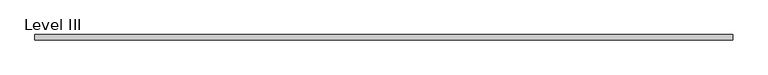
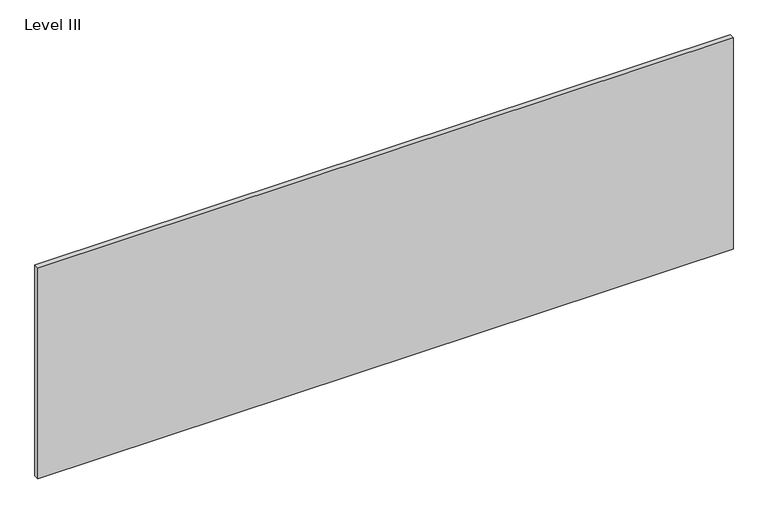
"""IFC4 building model written with IfcOpenShell, lengths in millimetres: proxy geometry, Panel-Fascia-Teknion-Altos-Landscape : Level III."""

from ifc_helpers import new_model, si_unit, frame, origin, place, context, project, spatial, polyline, outline, extrude, source, transform, mapped, element, save


def level_iii_9491f67b(model_context):
    return source(origin(), model_context, "Body", "SweptSolid", [
        extrude(outline(polyline([(1252.8407125, 9.525), (1252.8407125, -9.525), (-1252.8407125, -9.525), (-1252.8407125, 9.525), (1252.8407125, 9.525)])), frame((0.0, 0.0, 3.175), z_axis=(0.0, 0.0, 1.0), x_axis=(1.0, 0.0, 0.0)), (0.0, 0.0, 1.0), 804.418),
    ])


if __name__ == "__main__":
    model = new_model("IFC4")
    model_context = context("Model", 3, world=origin())
    ifc_project = project(units=[si_unit("LENGTHUNIT", "METRE", prefix="MILLI")], contexts=[model_context])
    site = spatial("IfcSite", under=ifc_project)
    building = spatial("IfcBuilding", under=site)
    placement = place(None, origin())
    level_iii_shape = level_iii_9491f67b(model_context)
    element("IfcBuildingElementProxy", 1, Name="Panel-Fascia-Teknion-Altos-Landscape : Level III", ObjectType="Panel-Fascia-Teknion-Altos-Landscape : Level III", at=placement, inside=building, context=model_context, shape_type="MappedRepresentation", body=[
        mapped(level_iii_shape, transform((0.0, 0.0, 0.0), x_axis=(1.0, 0.0, 0.0), y_axis=(0.0, 1.0, 0.0), z_axis=(0.0, 0.0, 1.0))),
    ])
    save(model, "model.ifc")
